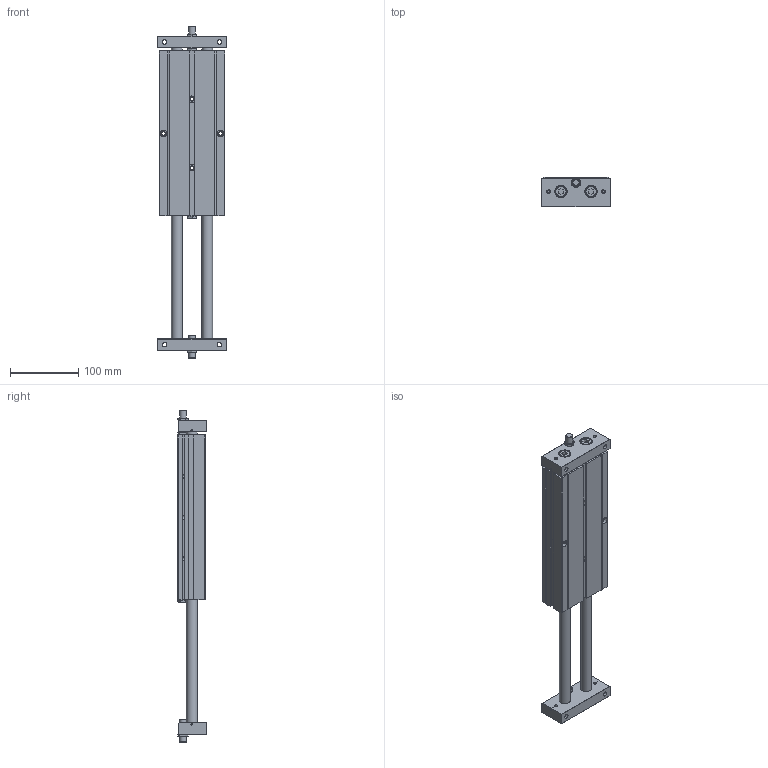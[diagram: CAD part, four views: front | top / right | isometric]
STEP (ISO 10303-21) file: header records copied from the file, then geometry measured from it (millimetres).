
FILE_DESCRIPTION((''),'2;1');
FILE_NAME('I:\3D電子目錄\氣缸\STU\STU\STU32\STU32x175.stp','2007-10-01T14:05:05',('Administrator'),(''),'Autodesk Inventor 11','Autodesk Inventor 11','');
FILE_SCHEMA(('AUTOMOTIVE_DESIGN { 1 0 10303 214 1 1 1 1 }'));
Length unit declared in the file: millimetre
Products named in the file (1): STU32
Bounding box: 100 x 42.5 x 485 mm (x, y, z)
Volume: 1080120.6 mm3; surface area: 149369.3 mm2
Topology: 1 solids, 1 shells, 315 faces, 744 edges, 472 vertices
Faces by surface type: plane 145, cone 76, bspline 62, cylinder 28, torus 4
Full cylindrical faces by diameter (mm): 2.459 x2, 9.5 x4, 10 x4, 16 x6, 17.5 x4, 34 x2, 35.9 x2
Entity records: 9985 total; most frequent: CARTESIAN_POINT 3594, ORIENTED_EDGE 1220, DIRECTION 1212, EDGE_CURVE 610, EDGE_LOOP 518, AXIS2_PLACEMENT_3D 464, VERTEX_POINT 446, FACE_OUTER_BOUND 315
